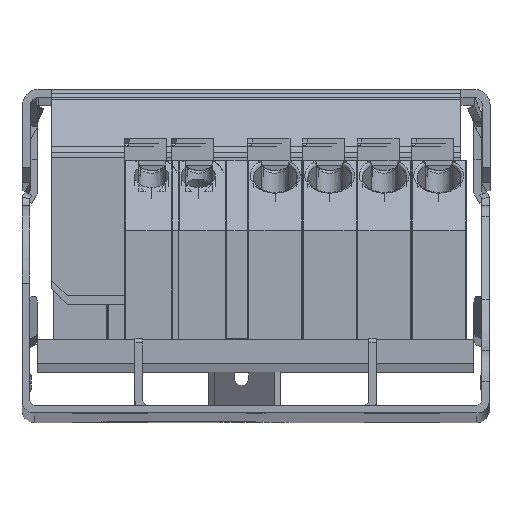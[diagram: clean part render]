
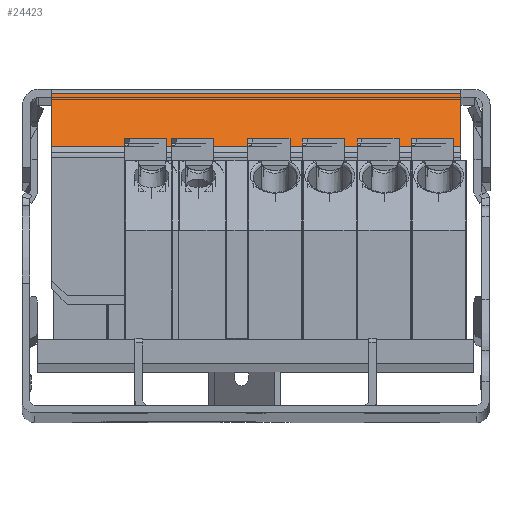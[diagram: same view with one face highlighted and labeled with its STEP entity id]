
A CAD part, top view. The second image highlights one B-rep face of the part: STEP entity #24423.
In plain terms, the highlighted planar face has unit normal (0, 0.707, 0.707).
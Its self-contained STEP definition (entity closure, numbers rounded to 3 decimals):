
#2254 = VERTEX_POINT ( 'NONE', #19826 ) ;
#3517 = CARTESIAN_POINT ( 'NONE',  ( 140.557, 201.954, 420.037 ) ) ;
#6080 = DIRECTION ( 'NONE',  ( -1., 0., 0. ) ) ;
#6213 = ORIENTED_EDGE ( 'NONE', *, *, #13880, .F. ) ;
#7034 = VECTOR ( 'NONE', #18948, 1000. ) ;
#8235 = CARTESIAN_POINT ( 'NONE',  ( 153.692, 205.335, 416.655 ) ) ;
#9080 = PLANE ( 'NONE',  #13517 ) ;
#10276 = LINE ( 'NONE', #3517, #23032 ) ;
#10798 = VERTEX_POINT ( 'NONE', #12900 ) ;
#11484 = CARTESIAN_POINT ( 'NONE',  ( 127.421, 203.644, 418.346 ) ) ;
#11622 = DIRECTION ( 'NONE',  ( 0., 0.707, 0.707 ) ) ;
#12900 = CARTESIAN_POINT ( 'NONE',  ( 127.421, 205.335, 416.655 ) ) ;
#12989 = ORIENTED_EDGE ( 'NONE', *, *, #29477, .F. ) ;
#13212 = CARTESIAN_POINT ( 'NONE',  ( 140.557, 205.335, 416.655 ) ) ;
#13517 = AXIS2_PLACEMENT_3D ( 'NONE', #26873, #11622, #29421 ) ;
#13880 = EDGE_CURVE ( 'NONE', #2254, #10798, #17598, .T. ) ;
#14901 = EDGE_CURVE ( 'NONE', #14908, #10798, #26680, .T. ) ;
#14908 = VERTEX_POINT ( 'NONE', #8235 ) ;
#15289 = ORIENTED_EDGE ( 'NONE', *, *, #14901, .T. ) ;
#15782 = DIRECTION ( 'NONE',  ( -1., 0., 0. ) ) ;
#16706 = EDGE_CURVE ( 'NONE', #19706, #2254, #10276, .T. ) ;
#17598 = LINE ( 'NONE', #11484, #31118 ) ;
#17600 = CARTESIAN_POINT ( 'NONE',  ( 153.692, 201.954, 420.037 ) ) ;
#18838 = CARTESIAN_POINT ( 'NONE',  ( 153.692, 203.644, 418.346 ) ) ;
#18948 = DIRECTION ( 'NONE',  ( 0., -0.707, 0.707 ) ) ;
#19706 = VERTEX_POINT ( 'NONE', #17600 ) ;
#19826 = CARTESIAN_POINT ( 'NONE',  ( 127.421, 201.954, 420.037 ) ) ;
#20579 = LINE ( 'NONE', #18838, #7034 ) ;
#23032 = VECTOR ( 'NONE', #6080, 1000. ) ;
#24216 = EDGE_LOOP ( 'NONE', ( #15289, #6213, #30707, #12989 ) ) ;
#24423 = ADVANCED_FACE ( 'NONE', ( #24452 ), #9080, .T. ) ;
#24452 = FACE_OUTER_BOUND ( 'NONE', #24216, .T. ) ;
#26680 = LINE ( 'NONE', #13212, #32653 ) ;
#26873 = CARTESIAN_POINT ( 'NONE',  ( 154.218, 205.613, 416.378 ) ) ;
#26945 = DIRECTION ( 'NONE',  ( 0., 0.707, -0.707 ) ) ;
#29421 = DIRECTION ( 'NONE',  ( -1., 0., 0. ) ) ;
#29477 = EDGE_CURVE ( 'NONE', #14908, #19706, #20579, .T. ) ;
#30707 = ORIENTED_EDGE ( 'NONE', *, *, #16706, .F. ) ;
#31118 = VECTOR ( 'NONE', #26945, 1000. ) ;
#32653 = VECTOR ( 'NONE', #15782, 1000. ) ;
